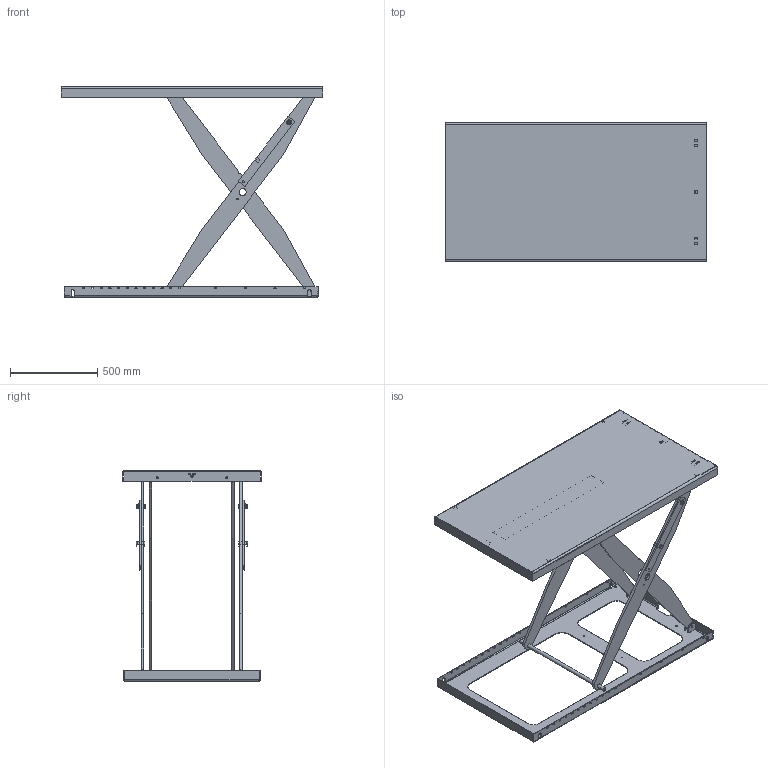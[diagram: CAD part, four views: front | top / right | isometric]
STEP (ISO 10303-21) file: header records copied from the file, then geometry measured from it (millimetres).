
FILE_DESCRIPTION(/* description */ ('CB 1500'),/* implementation_level */ '2;1');
FILE_NAME(/* name */ '\\EDMOFILE01\Users$\JOHSO\Desktop\36475_Elevated.stp',/* time_stamp */ '2018-02-20T08:13:54+01:00',/* author */ ('johso'),/* organization */ (''),/* preprocessor_version */ 'ST-DEVELOPER v16.5',/* originating_system */ 'Autodesk Inventor 2017',/* authorisation */ '');
FILE_SCHEMA (('AUTOMOTIVE_DESIGN { 1 0 10303 214 3 1 1 }'));
Length unit declared in the file: millimetre
Products named in the file (28): 36475.tmp; 36467; 22215; 612889; 22216; 612837; 45338-2; 36468-2; 612838; 45338-1; 36468-1; 45028; 22214; 22214-1; 42744; 45339; 22214-7; 85955; 80131; 42394; 607662; 607660; 607661; 44577; 84006; 84210; 83245; 42746
Assembly tree (46 placements, depth 5):
  36475.tmp
    36467
      22215
        45339  x4
        612889
      22216
        612837
          36468-2  x2
          45338-2
        612838
          36468-1  x2
          45338-1
        45028
      22214
        22214-1
        42744  x2
        45339  x4
        22214-7
        85955
        80131  x4
        42394  x2
      607662  x2
        607660
        607661
      44577  x2
      84006  x2
      84210  x2
      83245  x2
    42746
Bounding box: 1500 x 800 x 1210 mm (x, y, z)
Volume: 22185469.9 mm3; surface area: 6177474.7 mm2
Topology: 38 solids, 38 shells, 1184 faces, 3162 edges, 2067 vertices
Faces by surface type: plane 579, cylinder 533, cone 56, bspline 16
Full cylindrical faces by diameter (mm): 6.6 x4, 6.8 x4, 7.4 x2, 8 x4, 10 x2, 11.63 x4, 11.835 x2, 12.5 x6, 13.835 x1, 14 x2, 14.2 x2, 14.5 x8, 15 x2, 16 x2, 18.5 x1, 19 x1, 19.37 x2, 19.6 x2, 20 x2, 22 x2, 22.5 x2, 28 x2
Entity records: 26443 total; most frequent: CARTESIAN_POINT 4990, DIRECTION 4459, ORIENTED_EDGE 4236, EDGE_CURVE 2118, AXIS2_PLACEMENT_3D 1566, VERTEX_POINT 1411, LINE 1327, VECTOR 1327
